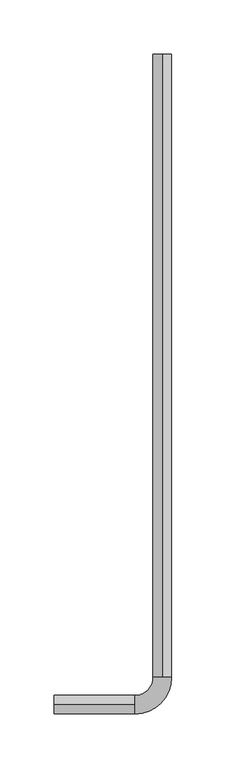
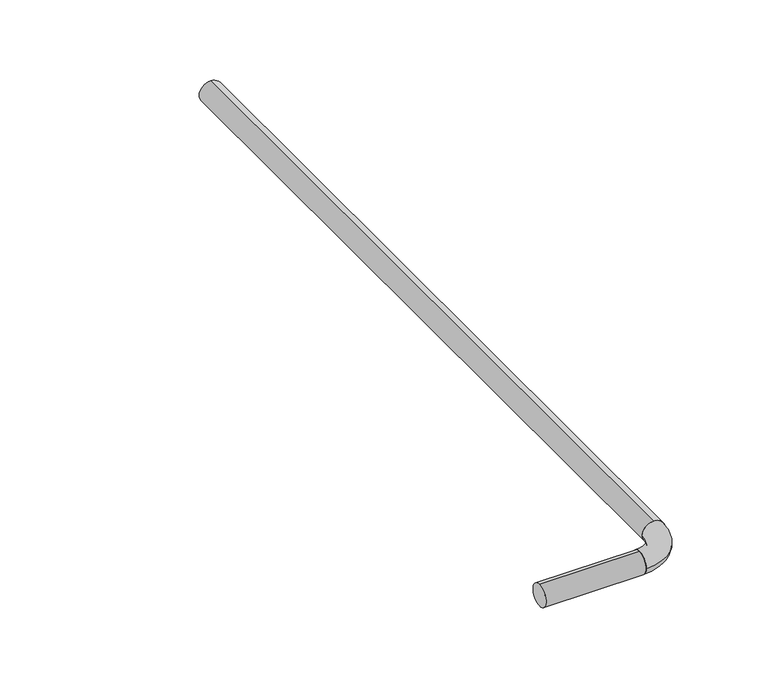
"""IFC4 building model written with IfcOpenShell, lengths in millimetres: pipe fitting geometry, VALTEC_VTi.960.I : VTi.960."""

from ifc_helpers import new_model, si_unit, point, frame, origin, origin_2d, place, context, project, spatial, circle_curve, ellipse_curve, trimmed, segment, composite_curve, outline, extrude, source, transform, mapped, element, save
from ifc_brep_helpers import plane_surface, revolved_surface, advanced_brep


def pipe_fitting_6934abba(model_context):
    return source(origin(), model_context, "Body", "SolidModel", [
        advanced_brep(
        [(-25.0, -8.5, 0.0), (-25.0, 8.5, 0.0), (8.5, 25.0, 0.0), (-8.5, 25.0, 0.0)],
        [
            (0, 1, circle_curve(frame((-25.0, 0.0, 0.0), z_axis=(-1.0, 0.0, 0.0), x_axis=(0.0, 1.0, 0.0)), 8.5)),
            (1, 0, circle_curve(frame((-25.0, 0.0, 0.0), z_axis=(-1.0, 0.0, 0.0), x_axis=(0.0, 1.0, 0.0)), 8.5)),
            (2, 3, circle_curve(frame((0.0, 25.0, 0.0), z_axis=(0.0, 1.0, 0.0), x_axis=(-1.0, 0.0, 0.0)), 8.5)),
            (3, 2, circle_curve(frame((0.0, 25.0, 0.0), z_axis=(0.0, 1.0, 0.0), x_axis=(-1.0, 0.0, 0.0)), 8.5)),
            (3, 1, circle_curve(frame((-25.0, 25.0, 0.0), z_axis=(0.0, 0.0, -1.0), x_axis=(0.0, -1.0, 0.0)), 16.5)),
            (0, 2, circle_curve(frame((-25.0, 25.0, 0.0), z_axis=(0.0, 0.0, 1.0), x_axis=(0.0, -1.0, 0.0)), 33.5)),
        ],
        [
            plane_surface(frame((-25.0, 0.0, 0.0), z_axis=(-1.0, 0.0, 0.0), x_axis=(0.0, 0.0, 1.0))),
            plane_surface(frame((0.0, 25.0, 0.0), z_axis=(0.0, 1.0, 0.0), x_axis=(0.0, 0.0, 1.0))),
            revolved_surface(trimmed(ellipse_curve(frame((-25.0, 0.0, 0.0), z_axis=(-1.0, 0.0, 0.0), x_axis=(0.0, 1.0, 0.0)), 8.5, 8.5), [point((-25.0, -8.5, 0.0))], [point((-25.0, 8.5, 0.0))], True, "CARTESIAN"), (-25.0, 25.0, 0.0), (0.0, 0.0, 1.0)),
            revolved_surface(trimmed(ellipse_curve(frame((-25.0, 0.0, 0.0), z_axis=(-1.0, 0.0, 0.0), x_axis=(0.0, 1.0, 0.0)), 8.5, 8.5), [point((-25.0, 8.5, 0.0))], [point((-25.0, -8.5, 0.0))], True, "CARTESIAN"), (-25.0, 25.0, 0.0), (0.0, 0.0, 1.0)),
        ],
        [
            (0, [[1, 2]]),
            (1, [[3, 4]]),
            (2, [[5, -1, 6, -4]]),
            (3, [[-6, -2, -5, -3]]),
        ],
    ),
        extrude(outline(composite_curve([segment(trimmed(circle_curve(origin_2d(), 8.5), [point((0.0, -8.5))], [point((0.0, 8.5))], False, "CARTESIAN"), True, "CONTINUOUS"), segment(trimmed(circle_curve(origin_2d(), 8.5), [point((0.0, 8.5))], [point((0.0, -8.5))], False, "CARTESIAN"), True, "CONTINUOUS")], self_intersect=False)), frame((-100.0, 0.0, 0.0), z_axis=(1.0, 0.0, 0.0), x_axis=(0.0, 1.0, 0.0)), (0.0, 0.0, 1.0), 75.0),
        extrude(outline(composite_curve([segment(trimmed(circle_curve(origin_2d(), 8.5), [point((-8.5, 0.0))], [point((8.5, 0.0))], False, "CARTESIAN"), True, "CONTINUOUS"), segment(trimmed(circle_curve(origin_2d(), 8.5), [point((8.5, 0.0))], [point((-8.5, 0.0))], False, "CARTESIAN"), True, "CONTINUOUS")], self_intersect=False)), frame((0.0, 25.0, 0.0), z_axis=(0.0, 1.0, 0.0), x_axis=(0.0, 0.0, 1.0)), (0.0, 0.0, 1.0), 575.0),
    ])


if __name__ == "__main__":
    model = new_model("IFC4")
    model_context = context("Model", 3, world=origin())
    ifc_project = project(units=[si_unit("LENGTHUNIT", "METRE", prefix="MILLI")], contexts=[model_context])
    site = spatial("IfcSite", under=ifc_project)
    building = spatial("IfcBuilding", under=site)
    placement = place(None, origin())
    pipe_fitting_shape = pipe_fitting_6934abba(model_context)
    element("IfcPipeFitting", 1, ObjectType="VALTEC_VTi.960.I : VTi.960", at=placement, inside=building, context=model_context, shape_type="MappedRepresentation", body=[
        mapped(pipe_fitting_shape, transform((0.0, 0.0, 0.0), x_axis=(1.0, 0.0, 0.0), y_axis=(0.0, 1.0, 0.0), z_axis=(0.0, 0.0, 1.0))),
    ])
    save(model, "model.ifc")
